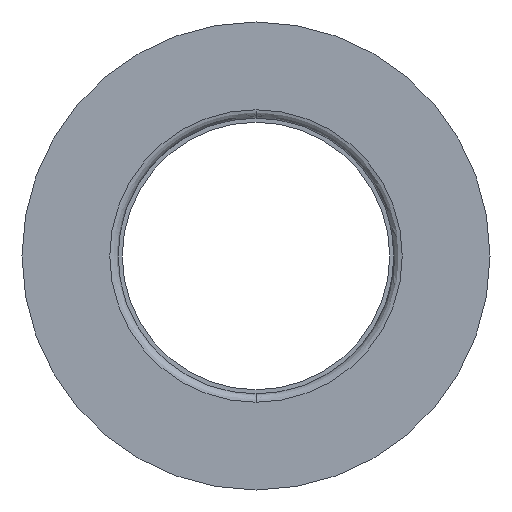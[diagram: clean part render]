
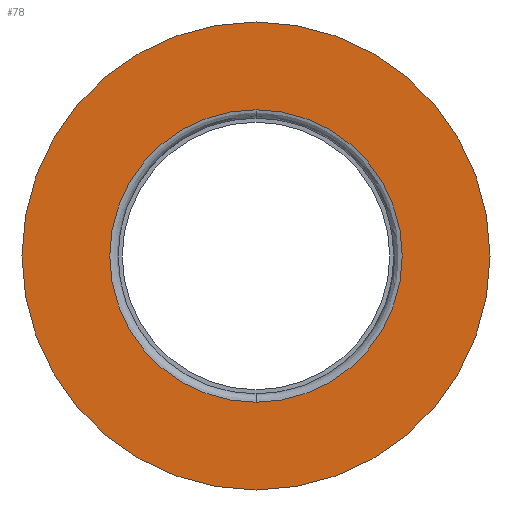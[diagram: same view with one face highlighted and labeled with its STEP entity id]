
A CAD part, left-side view. The second image highlights one B-rep face of the part: STEP entity #78.
In plain terms, the highlighted free-form (B-spline) face has degree [1, 1] with [2, 2] control points.
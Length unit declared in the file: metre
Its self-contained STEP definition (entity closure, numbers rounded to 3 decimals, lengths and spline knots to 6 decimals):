
#78 = ADVANCED_FACE( '', ( #105, #106 ), #107, .T. );
#105 = FACE_BOUND( '', #160, .T. );
#106 = FACE_OUTER_BOUND( '', #161, .T. );
#107 = B_SPLINE_SURFACE_WITH_KNOTS( '', 1, 1, ( ( #162, #163 ), ( #164, #165 ) ), .UNSPECIFIED., .F., .F., .F., ( 2, 2 ), ( 2, 2 ), ( 0., 1. ), ( 0., 1. ), .UNSPECIFIED. );
#160 = EDGE_LOOP( '', ( #339, #340 ) );
#161 = EDGE_LOOP( '', ( #341, #342 ) );
#162 = CARTESIAN_POINT( '', ( -0.04, -0.014168, -0.014168 ) );
#163 = CARTESIAN_POINT( '', ( -0.04, 0.014168, -0.014168 ) );
#164 = CARTESIAN_POINT( '', ( -0.04, -0.014168, 0.014168 ) );
#165 = CARTESIAN_POINT( '', ( -0.04, 0.014168, 0.014168 ) );
#339 = ORIENTED_EDGE( '', *, *, #487, .T. );
#340 = ORIENTED_EDGE( '', *, *, #488, .T. );
#341 = ORIENTED_EDGE( '', *, *, #489, .T. );
#342 = ORIENTED_EDGE( '', *, *, #490, .T. );
#487 = EDGE_CURVE( '', #539, #540, #541, .F. );
#488 = EDGE_CURVE( '', #540, #539, #542, .F. );
#489 = EDGE_CURVE( '', #543, #544, #545, .F. );
#490 = EDGE_CURVE( '', #544, #543, #546, .F. );
#539 = VERTEX_POINT( '', #619 );
#540 = VERTEX_POINT( '', #620 );
#541 = CIRCLE( '', #621, 0.00875 );
#542 = CIRCLE( '', #622, 0.00875 );
#543 = VERTEX_POINT( '', #623 );
#544 = VERTEX_POINT( '', #624 );
#545 = CIRCLE( '', #625, 0.014 );
#546 = CIRCLE( '', #626, 0.014 );
#619 = CARTESIAN_POINT( '', ( -0.04, 0., -0.00875 ) );
#620 = CARTESIAN_POINT( '', ( -0.04, 0., 0.00875 ) );
#621 = AXIS2_PLACEMENT_3D( '', #749, #750, #751 );
#622 = AXIS2_PLACEMENT_3D( '', #752, #753, #754 );
#623 = CARTESIAN_POINT( '', ( -0.04, 0., 0.014 ) );
#624 = CARTESIAN_POINT( '', ( -0.04, 0., -0.014 ) );
#625 = AXIS2_PLACEMENT_3D( '', #755, #756, #757 );
#626 = AXIS2_PLACEMENT_3D( '', #758, #759, #760 );
#749 = CARTESIAN_POINT( '', ( -0.04, 0., 0. ) );
#750 = DIRECTION( '', ( -1., 0., 0. ) );
#751 = DIRECTION( '', ( 0., 0., 1. ) );
#752 = CARTESIAN_POINT( '', ( -0.04, 0., 0. ) );
#753 = DIRECTION( '', ( -1., 0., 0. ) );
#754 = DIRECTION( '', ( 0., 0., 1. ) );
#755 = CARTESIAN_POINT( '', ( -0.04, 0., 0. ) );
#756 = DIRECTION( '', ( 1., 0., 0. ) );
#757 = DIRECTION( '', ( 0., 0., -1. ) );
#758 = CARTESIAN_POINT( '', ( -0.04, 0., 0. ) );
#759 = DIRECTION( '', ( 1., 0., 0. ) );
#760 = DIRECTION( '', ( 0., 0., -1. ) );
